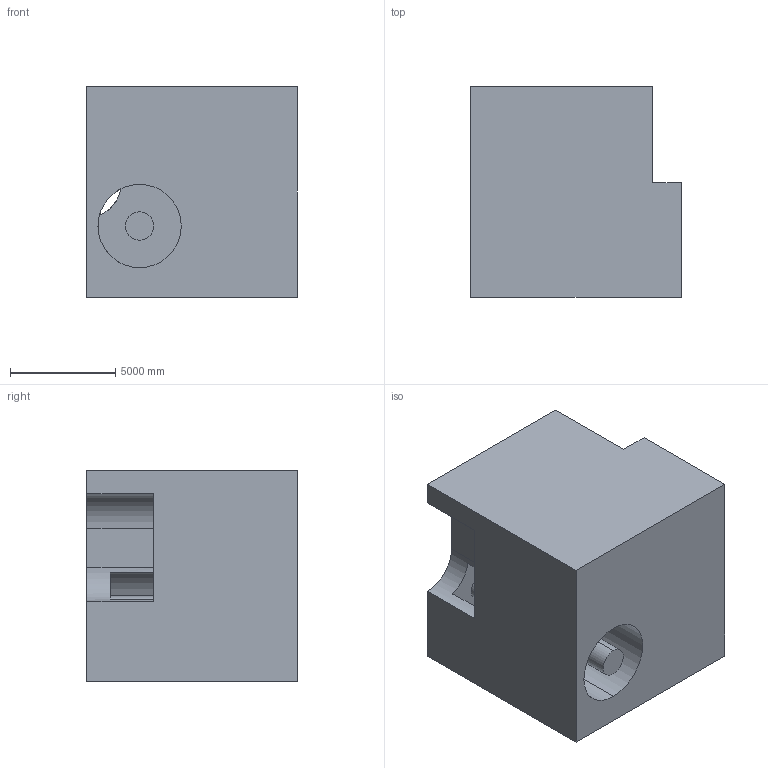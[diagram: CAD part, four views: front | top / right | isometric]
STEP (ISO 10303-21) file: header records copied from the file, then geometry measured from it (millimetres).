
FILE_DESCRIPTION (( 'STEP AP203' ), '1' );
FILE_NAME ('282.STEP', '2022-07-28T14:12:02', ( 'user' ), ( '' ), 'SwSTEP 2.0', 'SolidWorks 2021', '' );
FILE_SCHEMA (( 'CONFIG_CONTROL_DESIGN' ));
Length unit declared in the file: centimetre
Products named in the file (1): 282
Bounding box: 10000 x 10000 x 10000 mm (x, y, z)
Volume: 798279259535 mm3; surface area: 729740610.7 mm2
Topology: 1 solids, 1 shells, 18 faces, 48 edges, 32 vertices
Faces by surface type: plane 12, cylinder 6
Entity records: 649 total; most frequent: DIRECTION 102, CARTESIAN_POINT 99, ORIENTED_EDGE 96, EDGE_CURVE 48, AXIS2_PLACEMENT_3D 35, VERTEX_POINT 32, VECTOR 32, LINE 32
